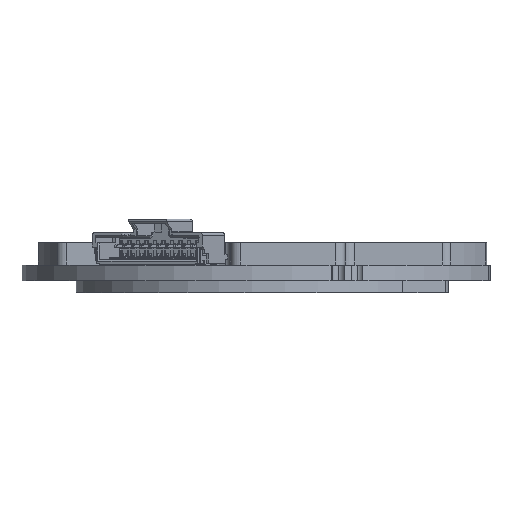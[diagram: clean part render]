
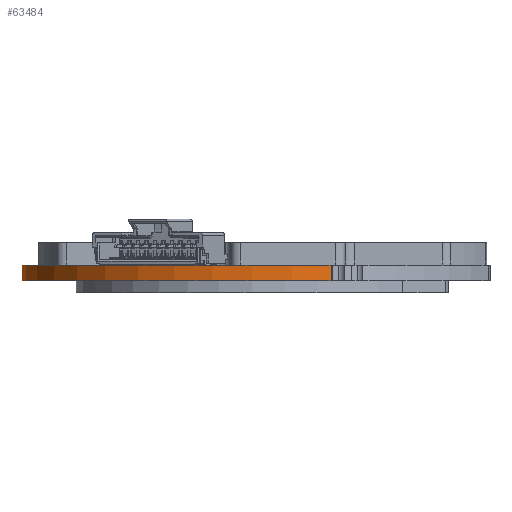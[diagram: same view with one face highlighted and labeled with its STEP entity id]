
A CAD part, left-side view. The second image highlights one B-rep face of the part: STEP entity #63484.
In plain terms, the highlighted cylindrical face has radius 25 mm (diameter 50 mm), a partial arc.
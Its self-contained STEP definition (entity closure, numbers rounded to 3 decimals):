
#826 = AXIS2_PLACEMENT_3D ( 'NONE', #58806, #87144, #72784 ) ;
#3965 = CARTESIAN_POINT ( 'NONE',  ( 21.476, 47.759, -1.59 ) ) ;
#6124 = CARTESIAN_POINT ( 'NONE',  ( 17.999, 23.002, -1.59 ) ) ;
#6421 = EDGE_LOOP ( 'NONE', ( #28511, #73725, #88874, #91536 ) ) ;
#8438 = VECTOR ( 'NONE', #32067, 1000. ) ;
#9009 = CARTESIAN_POINT ( 'NONE',  ( -6.074, 16.259, -1.59 ) ) ;
#11233 = EDGE_CURVE ( 'NONE', #84488, #16720, #15203, .T. ) ;
#11505 = DIRECTION ( 'NONE',  ( 0., 0., -1. ) ) ;
#12121 = DIRECTION ( 'NONE',  ( 0., 0., 1. ) ) ;
#15203 = CIRCLE ( 'NONE', #826, 25. ) ;
#16720 = VERTEX_POINT ( 'NONE', #69059 ) ;
#21002 = VERTEX_POINT ( 'NONE', #9009 ) ;
#24851 = CYLINDRICAL_SURFACE ( 'NONE', #55645, 25. ) ;
#25743 = FACE_OUTER_BOUND ( 'NONE', #6421, .T. ) ;
#28511 = ORIENTED_EDGE ( 'NONE', *, *, #45652, .T. ) ;
#29021 = CIRCLE ( 'NONE', #34936, 25. ) ;
#29115 = CARTESIAN_POINT ( 'NONE',  ( -6.074, 16.259, -1.59 ) ) ;
#32067 = DIRECTION ( 'NONE',  ( 0., 0., 1. ) ) ;
#34936 = AXIS2_PLACEMENT_3D ( 'NONE', #6124, #12121, #70371 ) ;
#36015 = LINE ( 'NONE', #29115, #70090 ) ;
#36938 = DIRECTION ( 'NONE',  ( 0., 0., 1. ) ) ;
#45652 = EDGE_CURVE ( 'NONE', #83726, #21002, #29021, .T. ) ;
#52741 = EDGE_CURVE ( 'NONE', #21002, #16720, #36015, .T. ) ;
#53956 = CARTESIAN_POINT ( 'NONE',  ( 17.999, 23.002, -1.59 ) ) ;
#54558 = EDGE_CURVE ( 'NONE', #83726, #84488, #68665, .T. ) ;
#55645 = AXIS2_PLACEMENT_3D ( 'NONE', #53956, #11505, #88346 ) ;
#58806 = CARTESIAN_POINT ( 'NONE',  ( 17.999, 23.002, 0. ) ) ;
#63484 = ADVANCED_FACE ( 'NONE', ( #25743 ), #24851, .T. ) ;
#68665 = LINE ( 'NONE', #3965, #8438 ) ;
#69059 = CARTESIAN_POINT ( 'NONE',  ( -6.074, 16.259, 0. ) ) ;
#70090 = VECTOR ( 'NONE', #36938, 1000. ) ;
#70371 = DIRECTION ( 'NONE',  ( 0.418, -0.909, 0. ) ) ;
#72784 = DIRECTION ( 'NONE',  ( 0.418, -0.909, 0. ) ) ;
#73725 = ORIENTED_EDGE ( 'NONE', *, *, #52741, .T. ) ;
#74869 = CARTESIAN_POINT ( 'NONE',  ( 21.476, 47.759, -1.59 ) ) ;
#83726 = VERTEX_POINT ( 'NONE', #74869 ) ;
#84488 = VERTEX_POINT ( 'NONE', #91472 ) ;
#87144 = DIRECTION ( 'NONE',  ( 0., 0., 1. ) ) ;
#88346 = DIRECTION ( 'NONE',  ( 0.418, -0.909, 0. ) ) ;
#88874 = ORIENTED_EDGE ( 'NONE', *, *, #11233, .F. ) ;
#91472 = CARTESIAN_POINT ( 'NONE',  ( 21.476, 47.759, 0. ) ) ;
#91536 = ORIENTED_EDGE ( 'NONE', *, *, #54558, .F. ) ;
